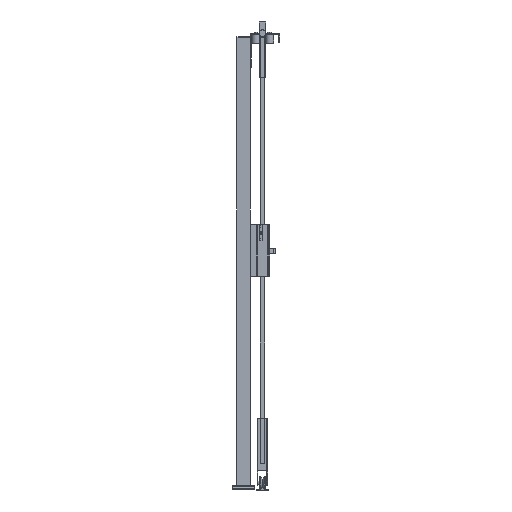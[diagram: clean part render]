
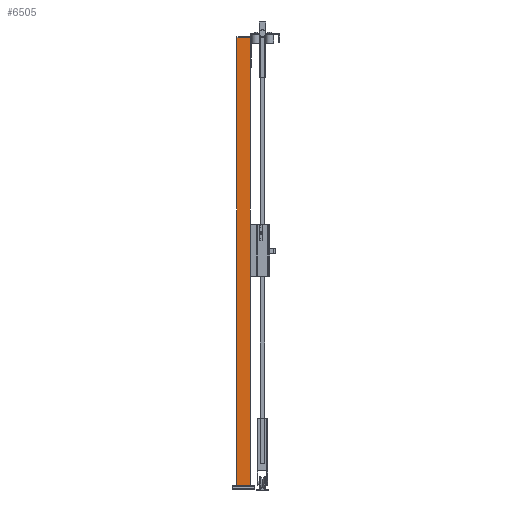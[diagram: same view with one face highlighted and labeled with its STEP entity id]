
A CAD part, left-side view. The second image highlights one B-rep face of the part: STEP entity #6505.
In plain terms, the highlighted planar face has unit normal (-1, 0, 0) as drawn and (0, 1, 0) by its records, which use the part's own axes.
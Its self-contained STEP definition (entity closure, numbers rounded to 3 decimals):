
#834=FACE_OUTER_BOUND('',#1169,.T.);
#1169=EDGE_LOOP('',(#4895,#4896,#4897,#4898));
#1714=LINE('',#9855,#2516);
#1720=LINE('',#9867,#2522);
#1723=LINE('',#9872,#2525);
#1724=LINE('',#9874,#2526);
#2516=VECTOR('',#7769,1.);
#2522=VECTOR('',#7777,1.);
#2525=VECTOR('',#7784,1.);
#2526=VECTOR('',#7787,1.);
#3166=VERTEX_POINT('',#9852);
#3167=VERTEX_POINT('',#9854);
#3169=VERTEX_POINT('',#9860);
#3172=VERTEX_POINT('',#9865);
#3839=EDGE_CURVE('',#3166,#3167,#1714,.T.);
#3845=EDGE_CURVE('',#3172,#3169,#1720,.T.);
#3848=EDGE_CURVE('',#3167,#3172,#1723,.T.);
#3849=EDGE_CURVE('',#3166,#3169,#1724,.T.);
#4895=ORIENTED_EDGE('',*,*,#3849,.T.);
#4896=ORIENTED_EDGE('',*,*,#3845,.F.);
#4897=ORIENTED_EDGE('',*,*,#3848,.F.);
#4898=ORIENTED_EDGE('',*,*,#3839,.F.);
#6216=PLANE('',#6899);
#6505=ADVANCED_FACE('',(#834),#6216,.F.);
#6899=AXIS2_PLACEMENT_3D('',#9873,#7785,#7786);
#7769=DIRECTION('',(-1.,0.,0.));
#7777=DIRECTION('',(1.,0.,0.));
#7784=DIRECTION('',(0.,0.,-1.));
#7785=DIRECTION('center_axis',(0.,-1.,0.));
#7786=DIRECTION('ref_axis',(0.,0.,-1.));
#7787=DIRECTION('',(0.,0.,-1.));
#9852=CARTESIAN_POINT('',(30.,30.,2020.));
#9854=CARTESIAN_POINT('',(-30.,30.,2020.));
#9855=CARTESIAN_POINT('',(0.,30.,2020.));
#9860=CARTESIAN_POINT('',(30.,30.,20.));
#9865=CARTESIAN_POINT('',(-30.,30.,20.));
#9867=CARTESIAN_POINT('',(0.,30.,20.));
#9872=CARTESIAN_POINT('',(-30.,30.,1020.));
#9873=CARTESIAN_POINT('Origin',(0.,30.,
1020.));
#9874=CARTESIAN_POINT('',(30.,30.,1020.));
